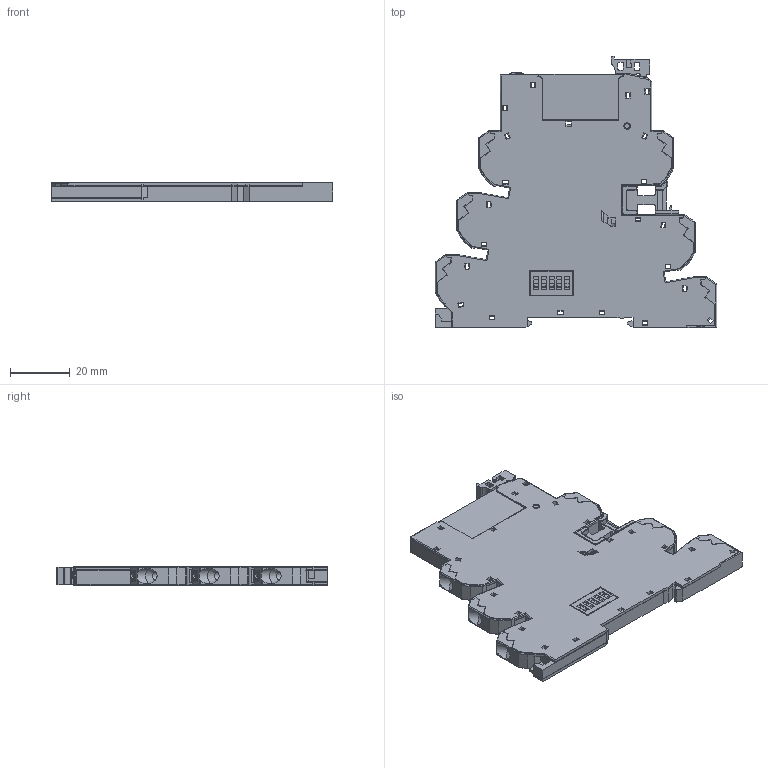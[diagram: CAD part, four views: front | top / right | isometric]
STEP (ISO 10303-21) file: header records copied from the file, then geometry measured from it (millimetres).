
FILE_DESCRIPTION( ( 'Unknown' ), '1' );
FILE_NAME( 'C:/Users/pdellaca/Desktop/Mezzacappa 93.6x push-in/39xx + 936x push-in STP/3990.stp', 'Unknown', ( 'Unknown' ), ( 'Unknown' ), 'PSStep 15.0.49', 'Unknown', ' ' );
FILE_SCHEMA( ( 'AUTOMOTIVE_DESIGN { 1 0 10303 214 1 1 1 1 }' ) );
Length unit declared in the file: millimetre
Products named in the file (6): top; EF00901+
Bounding box: 94.25 x 90.7 x 6.15 mm (x, y, z)
Surface area: 27466.9 mm2 (no closed solid volume)
Topology: 0 solids, 1238 shells, 1238 faces, 8335 edges, 8304 vertices
Faces by surface type: plane 902, cylinder 288, sphere 16, cone 14, torus 12, bspline 6
Full cylindrical faces by diameter (mm): 2 x2, 2.8 x6
Entity records: 88201 total; most frequent: CARTESIAN_POINT 18467, DIRECTION 11921, ORIENTED_EDGE 8289, EDGE_CURVE 8289, VERTEX_POINT 8289, LINE 6907, VECTOR 6907, AXIS2_PLACEMENT_3D 2507
